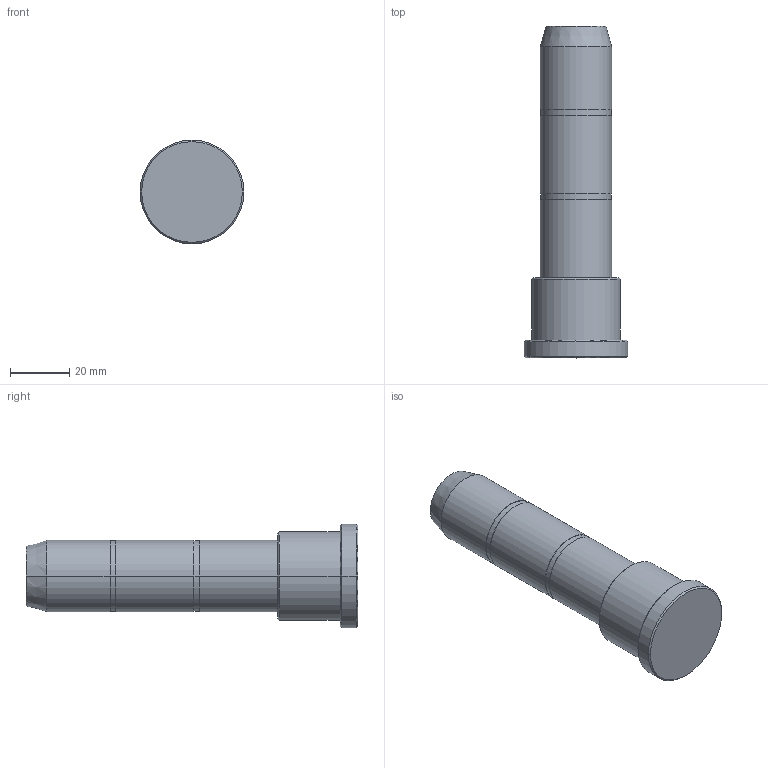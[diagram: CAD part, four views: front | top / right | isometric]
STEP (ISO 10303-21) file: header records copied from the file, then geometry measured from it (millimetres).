
FILE_DESCRIPTION (( 'STEP AP214' ), '1' );
FILE_NAME ('BR03 24x27x85.STEP', '2019-04-16T07:30:07', ( 'August' ), ( '' ), 'SwSTEP 2.0', 'SolidWorks 2018', '' );
FILE_SCHEMA (( 'AUTOMOTIVE_DESIGN' ));
Length unit declared in the file: millimetre
Products named in the file (1): BR03 24x27x85
Bounding box: 35 x 112 x 35 mm (x, y, z)
Volume: 58516.8 mm3; surface area: 10765.8 mm2
Topology: 1 solids, 1 shells, 30 faces, 58 edges, 36 vertices
Faces by surface type: cylinder 14, cone 8, plane 8
Entity records: 808 total; most frequent: DIRECTION 156, CARTESIAN_POINT 125, ORIENTED_EDGE 116, AXIS2_PLACEMENT_3D 67, EDGE_CURVE 58, EDGE_LOOP 36, CIRCLE 36, VERTEX_POINT 36
